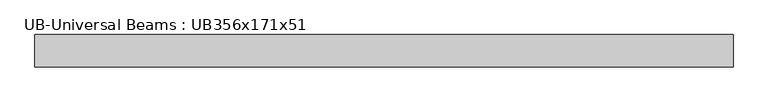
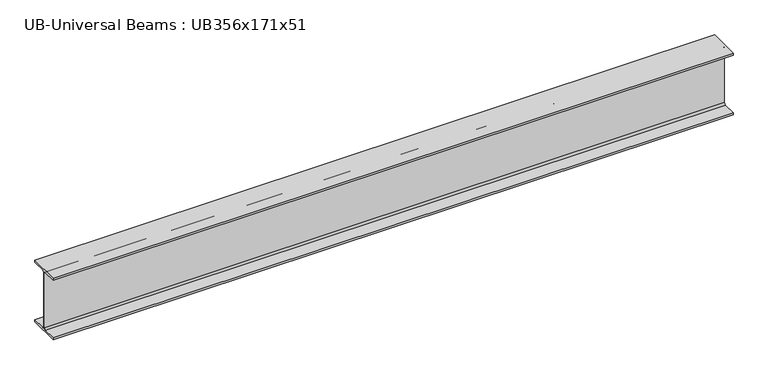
"""IFC4 building model written with IfcOpenShell, lengths in millimetres: beam geometry, UB-Universal Beams : UB356x171x51."""

from ifc_helpers import new_model, si_unit, point, frame, frame_2d, origin, place, context, project, spatial, polyline, circle_curve, trimmed, segment, composite_curve, outline, extrude, source, transform, mapped, element, save


def ub_universal_beams_ub356x171x51_a871b283(model_context):
    return source(origin(), model_context, "Body", "SweptSolid", [
        extrude(outline(composite_curve([segment(polyline([(85.75, -166.0), (85.75, -177.5), (-85.75, -177.5), (-85.75, -166.0), (-13.9, -166.0)]), True, "CONTINUOUS"), segment(trimmed(circle_curve(frame_2d((-13.9, -155.8)), 10.2), [point((-13.9, -166.0))], [point((-3.7, -155.8))], True, "CARTESIAN"), True, "CONTINUOUS"), segment(polyline([(-3.7, -155.8), (-3.7, 155.8)]), True, "CONTINUOUS"), segment(trimmed(circle_curve(frame_2d((-13.9, 155.8)), 10.2), [point((-3.7, 155.8))], [point((-13.9, 166.0))], True, "CARTESIAN"), True, "CONTINUOUS"), segment(polyline([(-13.9, 166.0), (-85.75, 166.0), (-85.75, 177.5), (85.75, 177.5), (85.75, 166.0), (13.9, 166.0)]), True, "CONTINUOUS"), segment(trimmed(circle_curve(frame_2d((13.9, 155.8)), 10.2), [point((13.9, 166.0))], [point((3.7, 155.8))], True, "CARTESIAN"), True, "CONTINUOUS"), segment(polyline([(3.7, 155.8), (3.7, -155.8)]), True, "CONTINUOUS"), segment(trimmed(circle_curve(frame_2d((13.9, -155.8)), 10.2), [point((3.7, -155.8))], [point((13.9, -166.0))], True, "CARTESIAN"), True, "CONTINUOUS"), segment(polyline([(13.9, -166.0), (85.75, -166.0)]), True, "CONTINUOUS")], self_intersect=False)), frame((-1877.8, 0.0, 0.0), z_axis=(1.0, 0.0, 0.0), x_axis=(0.0, 1.0, 0.0)), (0.0, 0.0, 1.0), 3697.2),
    ])


if __name__ == "__main__":
    model = new_model("IFC4")
    model_context = context("Model", 3, world=origin())
    ifc_project = project(units=[si_unit("LENGTHUNIT", "METRE", prefix="MILLI")], contexts=[model_context])
    site = spatial("IfcSite", under=ifc_project)
    building = spatial("IfcBuilding", under=site)
    placement = place(None, origin())
    ub_universal_beams_ub356x171x51_shape = ub_universal_beams_ub356x171x51_a871b283(model_context)
    element("IfcBeam", 1, ObjectType="UB-Universal Beams : UB356x171x51", at=placement, inside=building, context=model_context, shape_type="MappedRepresentation", body=[
        mapped(ub_universal_beams_ub356x171x51_shape, transform((0.0, 0.0, 0.0), x_axis=(1.0, 0.0, 0.0), y_axis=(0.0, 1.0, 0.0), z_axis=(0.0, 0.0, 1.0))),
    ])
    save(model, "model.ifc")
